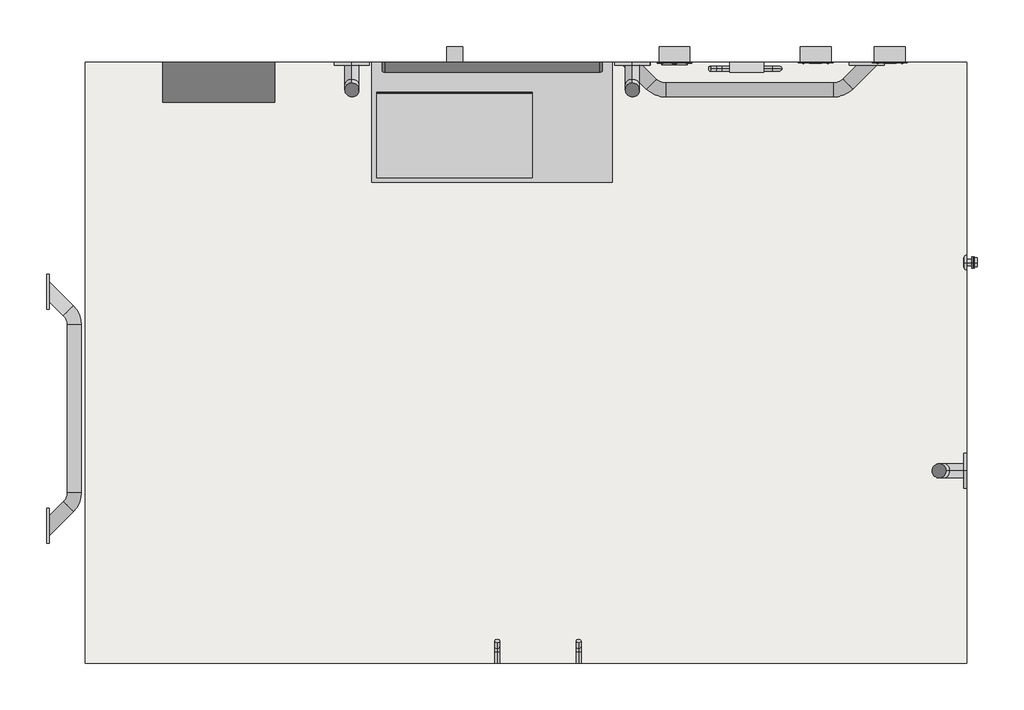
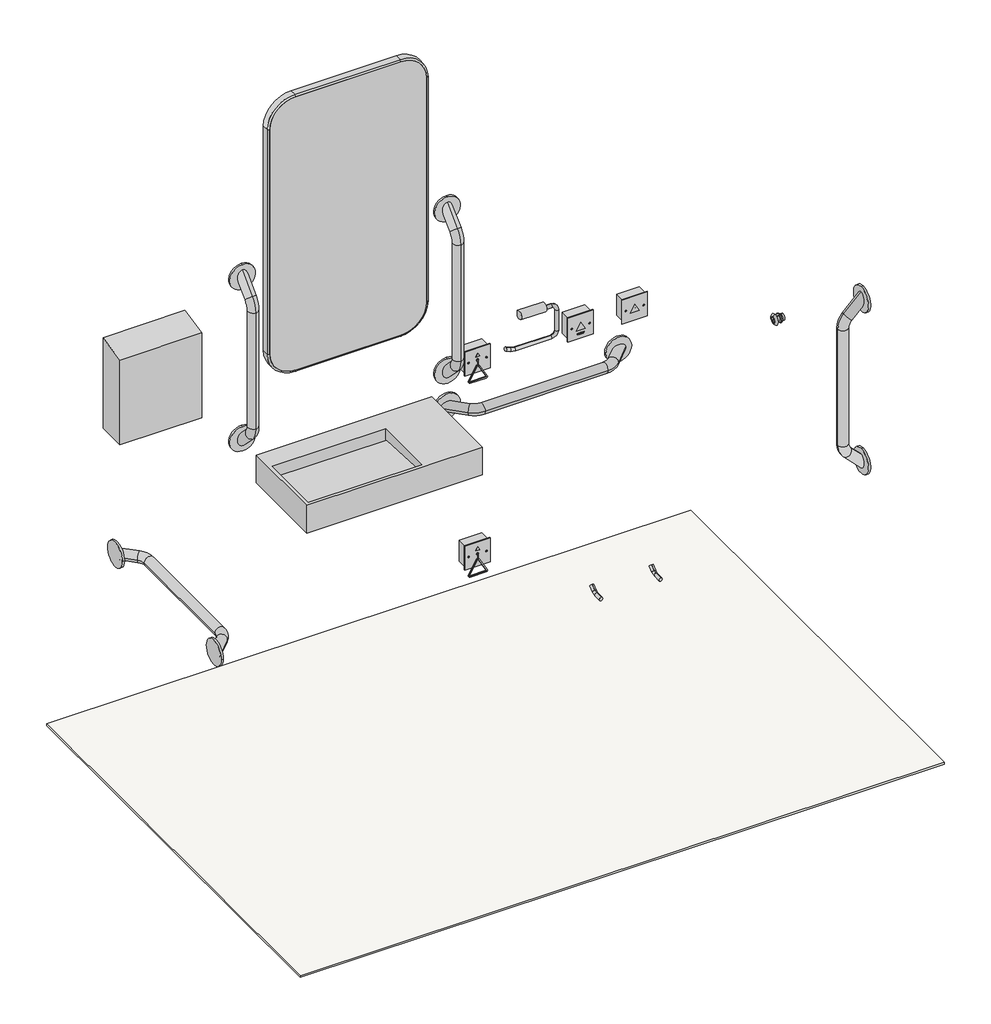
# One storey, incomplete: 16 proxies, 1 flow terminal, 1 slab.
"""IFC4 building model written with IfcOpenShell, lengths in millimetres."""

from ifc_helpers import new_model, si_unit, frame, origin, place, context, project, spatial, polyline, outline, extrude, transform, mapped, element, save
from components import communication_devices_be0d23eb, communication_devices_a7ff74ee, communication_devices_bc887a28, specialty_equipment_145b7e67, default_dbb53d0f, default_9fe8953b, tsl_3002_cs_satin_9505a0f1, tsl_45_cs_satin_2506d694, tsl_721_cs_satin_931a8dce, tsl_974_cs_satin_c187cbd4, default_49a61917

model = new_model("IFC4")

# Units and contexts
model_context = context("Model", 3, world=origin())
ifc_project = project(units=[si_unit("LENGTHUNIT", "METRE", prefix="MILLI")], contexts=[model_context])

# Site, building, storey
site = spatial("IfcSite", under=ifc_project)
building = spatial("IfcBuilding", under=site)
storey = spatial("IfcBuildingStorey", under=building, Name="TSL LAYOUTS", Elevation=3657.6)

# Proxies
placement = place(None, origin())
communication_devices_shape = communication_devices_be0d23eb(model_context)
element("IfcBuildingElementProxy", 1, Name="TSL_UK - TSLSZPC - Single Zone Assistance Alarm Kit : TSL.SZPC.CS - Satin - Reset Button", ObjectType="TSL_UK - TSLSZPC - Single Zone Assistance Alarm Kit : TSL.SZPC.CS - Satin - Reset Button", at=placement, inside=storey, context=model_context, shape_type="MappedRepresentation", body=[
    mapped(communication_devices_shape, transform((-3047.0580969, 2274.5885237, 4463.95), x_axis=(1.0, 0.0, 0.0), y_axis=(0.0, 1.0, 0.0), z_axis=(0.0, 0.0, 1.0))),
])
communication_devices_2_shape = communication_devices_a7ff74ee(model_context)
element("IfcBuildingElementProxy", 2, Name="TSL_UK - TSLSZPC - Single Zone Assistance Alarm Kit : TSL.SZPC.CS - Satin - Chord", ObjectType="TSL_UK - TSLSZPC - Single Zone Assistance Alarm Kit : TSL.SZPC.CS - Satin - Chord", at=placement, inside=storey, context=model_context, shape_type="MappedRepresentation", body=[
    mapped(communication_devices_2_shape, transform((-3399.3580969, 2274.5885237, 3763.95), x_axis=(1.0, 0.0, 0.0), y_axis=(0.0, 1.0, 0.0), z_axis=(0.0, 0.0, 1.0))),
])
element("IfcBuildingElementProxy", 3, Name="TSL_UK - TSLSZPC - Single Zone Assistance Alarm Kit : TSL.SZPC.CS - Satin - Chord", ObjectType="TSL_UK - TSLSZPC - Single Zone Assistance Alarm Kit : TSL.SZPC.CS - Satin - Chord", at=placement, inside=storey, context=model_context, shape_type="MappedRepresentation", body=[
    mapped(communication_devices_2_shape, transform((-3399.3580969, 2274.5885237, 4463.95), x_axis=(1.0, 0.0, 0.0), y_axis=(0.0, 1.0, 0.0), z_axis=(0.0, 0.0, 1.0))),
])
communication_devices_3_shape = communication_devices_bc887a28(model_context)
element("IfcBuildingElementProxy", 4, Name="TSL_UK - TSLSZPC - Single Zone Assistance Alarm Kit : TSL.SZPC.CS - Satin - Light and Buzzer", ObjectType="TSL_UK - TSLSZPC - Single Zone Assistance Alarm Kit : TSL.SZPC.CS - Satin - Light and Buzzer", at=placement, inside=storey, context=model_context, shape_type="MappedRepresentation", body=[
    mapped(communication_devices_3_shape, transform((-2862.0580969, 2274.5885237, 4463.95), x_axis=(1.0, 0.0, 0.0), y_axis=(0.0, 1.0, 0.0), z_axis=(0.0, 0.0, 1.0))),
])
specialty_equipment_shape = specialty_equipment_145b7e67(model_context)
element("IfcBuildingElementProxy", 5, Name="TSL_UK - TSLMR20 - Wall Mounted Mirror Rectangular : TSL.MR.20 - Satin", ObjectType="TSL_UK - TSLMR20 - Wall Mounted Mirror Rectangular : TSL.MR.20 - Satin", at=placement, inside=storey, context=model_context, shape_type="MappedRepresentation", body=[
    mapped(specialty_equipment_shape, transform((-3854.3580969, 2274.5885237, 3657.6), x_axis=(1.0, 0.0, 0.0), y_axis=(0.0, 1.0, 0.0), z_axis=(0.0, 0.0, 1.0))),
])
default_shape = default_dbb53d0f(model_context)
element("IfcBuildingElementProxy", 6, Name="TSL_UK - TSLMONODDA - Monolith Basin - Nest - Shared : Default", ObjectType="TSL_UK - TSLMONODDA - Monolith Basin - Nest - Shared : Default", at=placement, inside=storey, context=model_context, shape_type="MappedRepresentation", body=[
    mapped(default_shape, transform((-3854.3580969, 2274.5885237, 3663.95), x_axis=(-1.0, 0.0, 0.0), y_axis=(0.0, -1.0, 0.0), z_axis=(0.0, 0.0, 1.0))),
])
default_2_shape = default_9fe8953b(model_context)
element("IfcBuildingElementProxy", 7, Name="TSL_UK - TSLGR45 - Radius ADA Grab Bars - Nest - Shared : Default", ObjectType="TSL_UK - TSLGR45 - Radius ADA Grab Bars - Nest - Shared : Default", at=placement, inside=storey, context=model_context, shape_type="MappedRepresentation", body=[
    mapped(default_2_shape, transform((-3212.0580969, 2274.5885237, 4337.6), x_axis=(1.0, 0.0, 0.0), y_axis=(0.0, 1.0, 0.0), z_axis=(0.0, 0.0, 1.0))),
])
element("IfcBuildingElementProxy", 8, Name="TSL_UK - TSLGR45 - Radius ADA Grab Bars - Nest - Shared : Default", ObjectType="TSL_UK - TSLGR45 - Radius ADA Grab Bars - Nest - Shared : Default", at=placement, inside=storey, context=model_context, shape_type="MappedRepresentation", body=[
    mapped(default_2_shape, transform((-3504.3580969, 2274.5885237, 4757.1), x_axis=(0.0, 0.0, 1.0), y_axis=(0.0, 1.0, 0.0), z_axis=(-1.0, 0.0, 0.0))),
])
element("IfcBuildingElementProxy", 9, Name="TSL_UK - TSLGR45 - Radius ADA Grab Bars - Nest - Shared : Default", ObjectType="TSL_UK - TSLGR45 - Radius ADA Grab Bars - Nest - Shared : Default", at=placement, inside=storey, context=model_context, shape_type="MappedRepresentation", body=[
    mapped(default_2_shape, transform((-4204.3580969, 2274.5885237, 4757.1), x_axis=(0.0, 0.0, 1.0), y_axis=(0.0, 1.0, 0.0), z_axis=(-1.0, 0.0, 0.0))),
])
element("IfcBuildingElementProxy", 10, Name="TSL_UK - TSLGR45 - Radius ADA Grab Bars - Nest - Shared : Default", ObjectType="TSL_UK - TSLGR45 - Radius ADA Grab Bars - Nest - Shared : Default", at=placement, inside=storey, context=model_context, shape_type="MappedRepresentation", body=[
    mapped(default_2_shape, transform((-4966.5955969, 1409.5885237, 4657.6), x_axis=(0.0, 1.0, 0.0), y_axis=(-1.0, 0.0, 0.0), z_axis=(0.0, 0.0, 1.0))),
])
element("IfcBuildingElementProxy", 11, Name="TSL_UK - TSLGR45 - Radius ADA Grab Bars - Nest - Shared : Default", ObjectType="TSL_UK - TSLGR45 - Radius ADA Grab Bars - Nest - Shared : Default", at=placement, inside=storey, context=model_context, shape_type="MappedRepresentation", body=[
    mapped(default_2_shape, transform((-2669.7580969, 1254.5885237, 4757.1), x_axis=(0.0, 0.0, 1.0), y_axis=(1.0, 0.0, 0.0), z_axis=(0.0, 1.0, 0.0))),
])
tsl_3002_cs_satin_shape = tsl_3002_cs_satin_9505a0f1(model_context)
element("IfcBuildingElementProxy", 12, Name="TSL_UK - TSL3002 - Hand Dryer : TSL.3002.CS - Satin", ObjectType="TSL_UK - TSL3002 - Hand Dryer : TSL.3002.CS - Satin", at=placement, inside=storey, context=model_context, shape_type="MappedRepresentation", body=[
    mapped(tsl_3002_cs_satin_shape, transform((-4537.0580969, 2274.5885237, 3663.95), x_axis=(1.0, 0.0, 0.0), y_axis=(0.0, 1.0, 0.0), z_axis=(0.0, 0.0, 1.0))),
])
tsl_45_cs_satin_shape = tsl_45_cs_satin_2506d694(model_context)
element("IfcBuildingElementProxy", 13, Name="TSL_UK - TSL45 - Single Toilet Roll Holder : TSL.45.CS - Satin", ObjectType="TSL_UK - TSL45 - Single Toilet Roll Holder : TSL.45.CS - Satin", at=placement, inside=storey, context=model_context, shape_type="MappedRepresentation", body=[
    mapped(tsl_45_cs_satin_shape, transform((-3222.0580969, 2274.5885237, 3663.95), x_axis=(1.0, 0.0, 0.0), y_axis=(0.0, 1.0, 0.0), z_axis=(0.0, 0.0, 1.0))),
])
tsl_721_cs_satin_shape = tsl_721_cs_satin_931a8dce(model_context)
element("IfcBuildingElementProxy", 14, Name="TSL_UK - TSL721 - WC Flush Valve : TSL.721.CS - Satin", ObjectType="TSL_UK - TSL721 - WC Flush Valve : TSL.721.CS - Satin", at=placement, inside=storey, context=model_context, shape_type="MappedRepresentation", body=[
    mapped(tsl_721_cs_satin_shape, transform((-2669.7580969, 1774.5885237, 3657.6), x_axis=(0.0, -1.0, 0.0), y_axis=(1.0, 0.0, 0.0), z_axis=(0.0, 0.0, 1.0))),
])
tsl_974_cs_satin_shape = tsl_974_cs_satin_c187cbd4(model_context)
element("IfcBuildingElementProxy", 15, Name="TSL_UK - TSL974 - Coat Hook : TSL.974.CS - Satin", ObjectType="TSL_UK - TSL974 - Coat Hook : TSL.974.CS - Satin", at=placement, inside=storey, context=model_context, shape_type="MappedRepresentation", body=[
    mapped(tsl_974_cs_satin_shape, transform((-3841.6936189, 774.5885237, 3663.95), x_axis=(-1.0, 0.0, 0.0), y_axis=(0.0, -1.0, 0.0), z_axis=(0.0, 0.0, 1.0))),
])
element("IfcBuildingElementProxy", 16, Name="TSL_UK - TSL974 - Coat Hook : TSL.974.CS - Satin", ObjectType="TSL_UK - TSL974 - Coat Hook : TSL.974.CS - Satin", at=placement, inside=storey, context=model_context, shape_type="MappedRepresentation", body=[
    mapped(tsl_974_cs_satin_shape, transform((-3638.4936189, 774.5885237, 3663.95), x_axis=(-1.0, 0.0, 0.0), y_axis=(0.0, -1.0, 0.0), z_axis=(0.0, 0.0, 1.0))),
])

# Flow terminal
default_3_shape = default_49a61917(model_context)
element("IfcFlowTerminal", 17, ObjectType="TSL_UK - TSLDRAIN - Trap - Straight - Nest : Default", at=placement, inside=storey, context=model_context, shape_type="MappedRepresentation", body=[
    mapped(default_3_shape, transform((-3948.3580969, 2197.5050201, 3663.95), x_axis=(-1.0, 0.0, 0.0), y_axis=(0.0, -1.0, 0.0), z_axis=(0.0, 0.0, 1.0))),
])

# Slab
element("IfcSlab", 18, ObjectType="Tile Floor", at=placement, inside=storey, context=model_context, shape_type="SweptSolid", body=[
    extrude(outline(polyline([(-2669.7580969, 774.5885237), (-4869.7580969, 774.5885237), (-4869.7580969, 2274.5885237), (-2669.7580969, 2274.5885237), (-2669.7580969, 774.5885237)])), frame((0.0, 0.0, 3657.6), z_axis=(0.0, 0.0, 1.0), x_axis=(1.0, 0.0, 0.0)), (0.0, 0.0, 1.0), 6.35),
])

save(model, "model.ifc")
